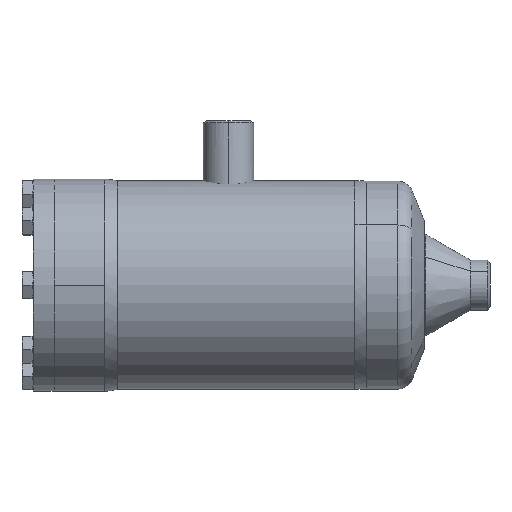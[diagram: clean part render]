
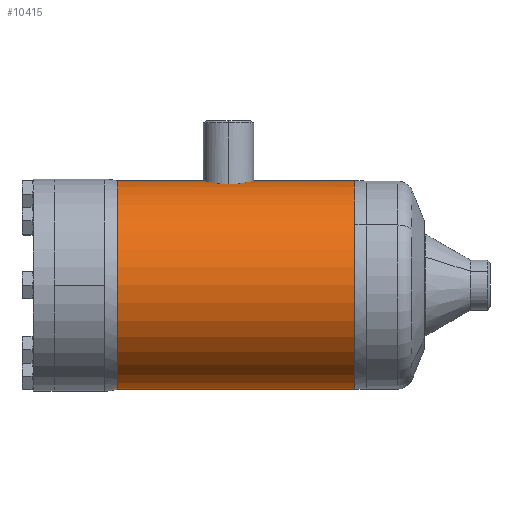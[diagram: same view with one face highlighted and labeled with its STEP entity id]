
A CAD part, left-side view. The second image highlights one B-rep face of the part: STEP entity #10415.
In plain terms, the highlighted cylindrical face has radius 69.85 mm (diameter 139.7 mm), a partial arc.
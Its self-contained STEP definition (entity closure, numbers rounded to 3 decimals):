
#84 = LINE ( 'NONE', #85, #86 ) ;
#85 = CARTESIAN_POINT ( 'NONE',  ( 0., 0., 69.85 ) ) ;
#86 = VECTOR ( 'NONE', #87, 1000. ) ;
#87 = DIRECTION ( 'NONE',  ( 0., -1., 0. ) ) ;
#1011 = VERTEX_POINT ( 'NONE', #9485 ) ;
#1426 = CIRCLE ( 'NONE', #1427, 69.85 ) ;
#1427 = AXIS2_PLACEMENT_3D ( 'NONE', #1433, #1434, #1435 ) ;
#1433 = CARTESIAN_POINT ( 'NONE',  ( 0., 3.522, 0. ) ) ;
#1434 = DIRECTION ( 'NONE',  ( 0., -1., 0. ) ) ;
#1435 = DIRECTION ( 'NONE',  ( 0., 0., -1. ) ) ;
#2947 = EDGE_CURVE ( 'NONE', #7653, #6199, #11340, .T. ) ;
#3134 = EDGE_CURVE ( 'NONE', #7525, #7801, #84, .T. ) ;
#3280 = ORIENTED_EDGE ( 'NONE', *, *, #2947, .F. ) ;
#4985 = CARTESIAN_POINT ( 'NONE',  ( -14.75, 88., 68.275 ) ) ;
#5365 = CARTESIAN_POINT ( 'NONE',  ( 0., 162.478, 69.85 ) ) ;
#6199 = VERTEX_POINT ( 'NONE', #4985 ) ;
#6244 = CIRCLE ( 'NONE', #6245, 69.85 ) ;
#6245 = AXIS2_PLACEMENT_3D ( 'NONE', #6246, #6247, #6248 ) ;
#6246 = CARTESIAN_POINT ( 'NONE',  ( 0., 162.478, 0. ) ) ;
#6247 = DIRECTION ( 'NONE',  ( 0., -1., 0. ) ) ;
#6248 = DIRECTION ( 'NONE',  ( 0., 0., -1. ) ) ;
#6397 = B_SPLINE_CURVE_WITH_KNOTS ( 'NONE', 3,
 ( #6398, #6399, #6400, #6401, #6402, #6403, #6404, #6408, #6409, #6410, #6411, #6412, #6413, #6414, #6415, #6416, #6417, #6418, #6419, #6420, #6421, #6422, #6423, #6425, #6426, #6427, #6428, #6429 ),
 .UNSPECIFIED., .F., .F.,
 ( 4, 2, 2, 2, 2, 2, 2, 2, 2, 2, 2, 2, 2, 4 ),
 ( 0.046, 0.049, 0.051, 0.052, 0.053, 0.055, 0.058, 0.059, 0.061, 0.064, 0.065, 0.066, 0.068, 0.069 ),
 .UNSPECIFIED. ) ;
#6398 = CARTESIAN_POINT ( 'NONE',  ( -14.75, 88., 68.275 ) ) ;
#6399 = CARTESIAN_POINT ( 'NONE',  ( -14.75, 87.036, 68.275 ) ) ;
#6400 = CARTESIAN_POINT ( 'NONE',  ( -14.656, 86.076, 68.295 ) ) ;
#6401 = CARTESIAN_POINT ( 'NONE',  ( -14.371, 84.641, 68.356 ) ) ;
#6402 = CARTESIAN_POINT ( 'NONE',  ( -14.252, 84.169, 68.381 ) ) ;
#6403 = CARTESIAN_POINT ( 'NONE',  ( -13.971, 83.246, 68.439 ) ) ;
#6404 = CARTESIAN_POINT ( 'NONE',  ( -13.809, 82.793, 68.472 ) ) ;
#6408 = CARTESIAN_POINT ( 'NONE',  ( -13.44, 81.905, 68.545 ) ) ;
#6409 = CARTESIAN_POINT ( 'NONE',  ( -13.235, 81.47, 68.585 ) ) ;
#6410 = CARTESIAN_POINT ( 'NONE',  ( -12.778, 80.617, 68.672 ) ) ;
#6411 = CARTESIAN_POINT ( 'NONE',  ( -12.527, 80.198, 68.718 ) ) ;
#6412 = CARTESIAN_POINT ( 'NONE',  ( -11.722, 78.995, 68.862 ) ) ;
#6413 = CARTESIAN_POINT ( 'NONE',  ( -11.113, 78.254, 68.964 ) ) ;
#6414 = CARTESIAN_POINT ( 'NONE',  ( -10.094, 77.234, 69.118 ) ) ;
#6415 = CARTESIAN_POINT ( 'NONE',  ( -9.734, 76.908, 69.169 ) ) ;
#6416 = CARTESIAN_POINT ( 'NONE',  ( -8.985, 76.292, 69.271 ) ) ;
#6417 = CARTESIAN_POINT ( 'NONE',  ( -8.598, 76.005, 69.32 ) ) ;
#6418 = CARTESIAN_POINT ( 'NONE',  ( -7.4, 75.205, 69.462 ) ) ;
#6419 = CARTESIAN_POINT ( 'NONE',  ( -6.554, 74.751, 69.548 ) ) ;
#6420 = CARTESIAN_POINT ( 'NONE',  ( -5.211, 74.193, 69.657 ) ) ;
#6421 = CARTESIAN_POINT ( 'NONE',  ( -4.75, 74.028, 69.69 ) ) ;
#6422 = CARTESIAN_POINT ( 'NONE',  ( -3.826, 73.747, 69.747 ) ) ;
#6423 = CARTESIAN_POINT ( 'NONE',  ( -3.358, 73.629, 69.771 ) ) ;
#6425 = CARTESIAN_POINT ( 'NONE',  ( -2.415, 73.441, 69.81 ) ) ;
#6426 = CARTESIAN_POINT ( 'NONE',  ( -1.938, 73.37, 69.825 ) ) ;
#6427 = CARTESIAN_POINT ( 'NONE',  ( -0.976, 73.274, 69.845 ) ) ;
#6428 = CARTESIAN_POINT ( 'NONE',  ( -0.487, 73.25, 69.85 ) ) ;
#6429 = CARTESIAN_POINT ( 'NONE',  ( 0., 73.25, 69.85 ) ) ;
#6525 = FACE_OUTER_BOUND ( 'NONE', #10177, .T. ) ;
#6526 = CYLINDRICAL_SURFACE ( 'NONE', #6527, 69.85 ) ;
#6527 = AXIS2_PLACEMENT_3D ( 'NONE', #6528, #6529, #6530 ) ;
#6528 = CARTESIAN_POINT ( 'NONE',  ( 0., 0., 0. ) ) ;
#6529 = DIRECTION ( 'NONE',  ( 0., -1., 0. ) ) ;
#6530 = DIRECTION ( 'NONE',  ( 0., 0., -1. ) ) ;
#7077 = ORIENTED_EDGE ( 'NONE', *, *, #10196, .F. ) ;
#7321 = ORIENTED_EDGE ( 'NONE', *, *, #3134, .F. ) ;
#7377 = ORIENTED_EDGE ( 'NONE', *, *, #10794, .F. ) ;
#7525 = VERTEX_POINT ( 'NONE', #8367 ) ;
#7628 = VERTEX_POINT ( 'NONE', #8910 ) ;
#7653 = VERTEX_POINT ( 'NONE', #9104 ) ;
#7686 = EDGE_CURVE ( 'NONE', #8858, #7653, #9557, .T. ) ;
#7801 = VERTEX_POINT ( 'NONE', #10210 ) ;
#7871 = EDGE_CURVE ( 'NONE', #1011, #7628, #10993, .T. ) ;
#8367 = CARTESIAN_POINT ( 'NONE',  ( 0., 73.25, 69.85 ) ) ;
#8858 = VERTEX_POINT ( 'NONE', #5365 ) ;
#8910 = CARTESIAN_POINT ( 'NONE',  ( 0., 3.522, -69.85 ) ) ;
#9104 = CARTESIAN_POINT ( 'NONE',  ( 0., 102.75, 69.85 ) ) ;
#9335 = ORIENTED_EDGE ( 'NONE', *, *, #7871, .T. ) ;
#9485 = CARTESIAN_POINT ( 'NONE',  ( 0., 162.478, -69.85 ) ) ;
#9557 = LINE ( 'NONE', #9558, #9559 ) ;
#9558 = CARTESIAN_POINT ( 'NONE',  ( 0., 0., 69.85 ) ) ;
#9559 = VECTOR ( 'NONE', #9560, 1000. ) ;
#9560 = DIRECTION ( 'NONE',  ( 0., -1., 0. ) ) ;
#9669 = ORIENTED_EDGE ( 'NONE', *, *, #7686, .F. ) ;
#10011 = EDGE_CURVE ( 'NONE', #8858, #1011, #6244, .T. ) ;
#10177 = EDGE_LOOP ( 'NONE', ( #9669, #10342, #9335, #7377, #7321, #7077, #3280 ) ) ;
#10196 = EDGE_CURVE ( 'NONE', #6199, #7525, #6397, .T. ) ;
#10210 = CARTESIAN_POINT ( 'NONE',  ( 0., 3.522, 69.85 ) ) ;
#10342 = ORIENTED_EDGE ( 'NONE', *, *, #10011, .T. ) ;
#10415 = ADVANCED_FACE ( 'NONE', ( #6525 ), #6526, .T. ) ;
#10794 = EDGE_CURVE ( 'NONE', #7801, #7628, #1426, .T. ) ;
#10993 = LINE ( 'NONE', #10994, #10995 ) ;
#10994 = CARTESIAN_POINT ( 'NONE',  ( 0., 0., -69.85 ) ) ;
#10995 = VECTOR ( 'NONE', #10996, 1000. ) ;
#10996 = DIRECTION ( 'NONE',  ( 0., -1., 0. ) ) ;
#11340 = B_SPLINE_CURVE_WITH_KNOTS ( 'NONE', 3,
 ( #11341, #11342, #11343, #11344, #11345, #11346, #11347, #11348, #11349, #11350, #11356, #11357, #11358, #11359, #11360, #11361, #11362, #11363, #11364, #11365, #11366, #11367, #11368, #11369, #11370, #11371, #11375, #11376 ),
 .UNSPECIFIED., .F., .F.,
 ( 4, 2, 2, 2, 2, 2, 2, 2, 2, 2, 2, 2, 2, 4 ),
 ( 0.023, 0.025, 0.026, 0.029, 0.03, 0.032, 0.033, 0.035, 0.038, 0.039, 0.04, 0.043, 0.045, 0.046 ),
 .UNSPECIFIED. ) ;
#11341 = CARTESIAN_POINT ( 'NONE',  ( 0., 102.75, 69.85 ) ) ;
#11342 = CARTESIAN_POINT ( 'NONE',  ( -0.482, 102.75, 69.85 ) ) ;
#11343 = CARTESIAN_POINT ( 'NONE',  ( -0.966, 102.726, 69.845 ) ) ;
#11344 = CARTESIAN_POINT ( 'NONE',  ( -1.938, 102.63, 69.825 ) ) ;
#11345 = CARTESIAN_POINT ( 'NONE',  ( -2.419, 102.558, 69.81 ) ) ;
#11346 = CARTESIAN_POINT ( 'NONE',  ( -3.839, 102.274, 69.751 ) ) ;
#11347 = CARTESIAN_POINT ( 'NONE',  ( -4.759, 101.995, 69.693 ) ) ;
#11348 = CARTESIAN_POINT ( 'NONE',  ( -6.101, 101.438, 69.585 ) ) ;
#11349 = CARTESIAN_POINT ( 'NONE',  ( -6.542, 101.229, 69.544 ) ) ;
#11350 = CARTESIAN_POINT ( 'NONE',  ( -7.394, 100.772, 69.459 ) ) ;
#11356 = CARTESIAN_POINT ( 'NONE',  ( -7.805, 100.525, 69.414 ) ) ;
#11357 = CARTESIAN_POINT ( 'NONE',  ( -8.603, 99.991, 69.319 ) ) ;
#11358 = CARTESIAN_POINT ( 'NONE',  ( -8.988, 99.705, 69.27 ) ) ;
#11359 = CARTESIAN_POINT ( 'NONE',  ( -9.731, 99.095, 69.17 ) ) ;
#11360 = CARTESIAN_POINT ( 'NONE',  ( -10.091, 98.769, 69.118 ) ) ;
#11361 = CARTESIAN_POINT ( 'NONE',  ( -11.118, 97.741, 68.963 ) ) ;
#11362 = CARTESIAN_POINT ( 'NONE',  ( -11.726, 96.999, 68.861 ) ) ;
#11363 = CARTESIAN_POINT ( 'NONE',  ( -12.526, 95.803, 68.718 ) ) ;
#11364 = CARTESIAN_POINT ( 'NONE',  ( -12.774, 95.39, 68.672 ) ) ;
#11365 = CARTESIAN_POINT ( 'NONE',  ( -13.232, 94.536, 68.586 ) ) ;
#11366 = CARTESIAN_POINT ( 'NONE',  ( -13.44, 94.095, 68.545 ) ) ;
#11367 = CARTESIAN_POINT ( 'NONE',  ( -13.995, 92.758, 68.435 ) ) ;
#11368 = CARTESIAN_POINT ( 'NONE',  ( -14.274, 91.839, 68.376 ) ) ;
#11369 = CARTESIAN_POINT ( 'NONE',  ( -14.559, 90.417, 68.316 ) ) ;
#11370 = CARTESIAN_POINT ( 'NONE',  ( -14.631, 89.933, 68.301 ) ) ;
#11371 = CARTESIAN_POINT ( 'NONE',  ( -14.726, 88.965, 68.28 ) ) ;
#11375 = CARTESIAN_POINT ( 'NONE',  ( -14.75, 88.482, 68.275 ) ) ;
#11376 = CARTESIAN_POINT ( 'NONE',  ( -14.75, 88., 68.275 ) ) ;
